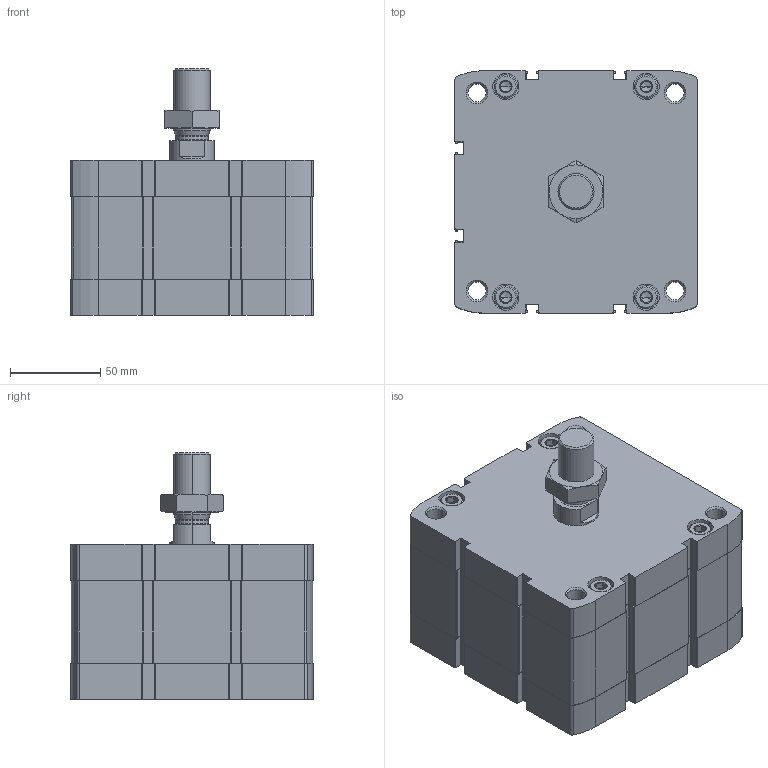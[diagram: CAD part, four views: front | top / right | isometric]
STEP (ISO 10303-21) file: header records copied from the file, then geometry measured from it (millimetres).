
FILE_DESCRIPTION (( 'STEP AP203' ), '1' );
FILE_NAME ('CCN125-5M.STEP', '2020-06-05T19:20:43', ( '' ), ( '' ), 'SwSTEP 2.0', 'SolidWorks 2019', '' );
FILE_SCHEMA (( 'CONFIG_CONTROL_DESIGN' ));
Length unit declared in the file: millimetre
Products named in the file (1): CCN125-5M
Bounding box: 134.6 x 134.6 x 137 mm (x, y, z)
Volume: 1450479.3 mm3; surface area: 190835.5 mm2
Topology: 3 solids, 3 shells, 555 faces, 1412 edges, 886 vertices
Faces by surface type: plane 275, cylinder 196, cone 80, torus 4
Entity records: 18163 total; most frequent: CARTESIAN_POINT 4452, DIRECTION 2966, ORIENTED_EDGE 2792, EDGE_CURVE 1396, AXIS2_PLACEMENT_3D 1092, VERTEX_POINT 886, VECTOR 782, LINE 782
